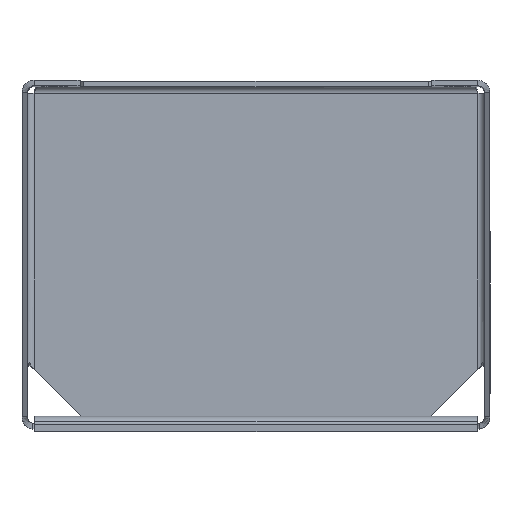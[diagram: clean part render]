
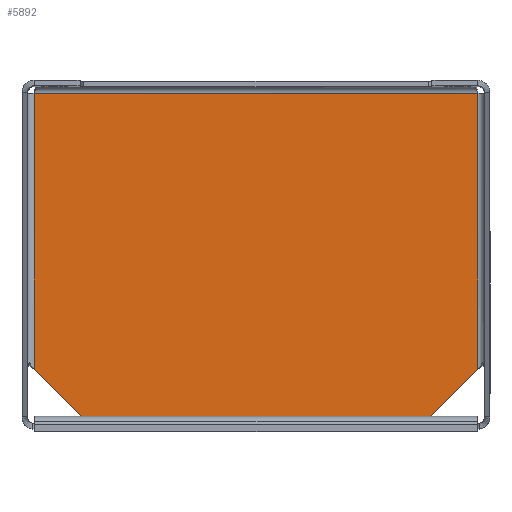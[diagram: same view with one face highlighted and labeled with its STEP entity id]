
A CAD part, top view. The second image highlights one B-rep face of the part: STEP entity #5892.
In plain terms, the highlighted planar face has unit normal (0, 0, 1).
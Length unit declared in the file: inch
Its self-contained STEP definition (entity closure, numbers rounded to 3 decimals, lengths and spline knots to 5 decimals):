
#475 = CARTESIAN_POINT ( 'NONE',  ( 3.9365, 1.152, 0.095 ) ) ;
#482 = DIRECTION ( 'NONE',  ( -0.707, -0.707, 0. ) ) ;
#573 = CARTESIAN_POINT ( 'NONE',  ( 2.9925, 0.208, 0.095 ) ) ;
#611 = CARTESIAN_POINT ( 'NONE',  ( -2.9925, 0.208, 0.095 ) ) ;
#612 = CARTESIAN_POINT ( 'NONE',  ( -3.823, 1.0385, 0.095 ) ) ;
#638 = CARTESIAN_POINT ( 'NONE',  ( -3.823, 5.792, 0.095 ) ) ;
#709 = CARTESIAN_POINT ( 'NONE',  ( 3.823, 5.792, 0.095 ) ) ;
#718 = CARTESIAN_POINT ( 'NONE',  ( 3.823, 1.0385, 0.095 ) ) ;
#827 = CARTESIAN_POINT ( 'NONE',  ( 3.823, 6., 0.095 ) ) ;
#832 = DIRECTION ( 'NONE',  ( 0., -1., 0. ) ) ;
#1036 = ORIENTED_EDGE ( 'NONE', *, *, #2772, .T. ) ;
#1037 = ORIENTED_EDGE ( 'NONE', *, *, #2717, .F. ) ;
#1038 = ORIENTED_EDGE ( 'NONE', *, *, #2789, .F. ) ;
#1041 = ORIENTED_EDGE ( 'NONE', *, *, #7444, .F. ) ;
#1042 = ORIENTED_EDGE ( 'NONE', *, *, #2731, .F. ) ;
#2538 = CARTESIAN_POINT ( 'NONE',  ( -4.031, 6., 0.095 ) ) ;
#2539 = PLANE ( 'NONE',  #3227 ) ;
#2544 = DIRECTION ( 'NONE',  ( 0., 0., -1. ) ) ;
#2545 = DIRECTION ( 'NONE',  ( -1., 0., 0. ) ) ;
#2717 = EDGE_CURVE ( 'NONE', #7158, #7159, #4532, .T. ) ;
#2731 = EDGE_CURVE ( 'NONE', #7191, #7293, #4550, .T. ) ;
#2772 = EDGE_CURVE ( 'NONE', #7191, #7159, #4599, .T. ) ;
#2789 = EDGE_CURVE ( 'NONE', #7096, #7158, #4625, .T. ) ;
#3227 = AXIS2_PLACEMENT_3D ( 'NONE', #2538, #2544, #2545 ) ;
#3637 = FACE_OUTER_BOUND ( 'NONE', #4403, .T. ) ;
#3695 = VECTOR ( 'NONE', #482, 39.37008 ) ;
#3698 = LINE ( 'NONE', #475, #3695 ) ;
#3720 = LINE ( 'NONE', #827, #3723 ) ;
#3723 = VECTOR ( 'NONE', #832, 39.37008 ) ;
#4403 = EDGE_LOOP ( 'NONE', ( #6687, #1041, #1042, #1036, #1037, #1038 ) ) ;
#4528 = VECTOR ( 'NONE', #5720, 39.37008 ) ;
#4532 = LINE ( 'NONE', #5721, #4528 ) ;
#4550 = LINE ( 'NONE', #5675, #4556 ) ;
#4556 = VECTOR ( 'NONE', #5658, 39.37008 ) ;
#4595 = VECTOR ( 'NONE', #5478, 39.37008 ) ;
#4599 = LINE ( 'NONE', #5479, #4595 ) ;
#4614 = VECTOR ( 'NONE', #5408, 39.37008 ) ;
#4625 = LINE ( 'NONE', #5409, #4614 ) ;
#5408 = DIRECTION ( 'NONE',  ( -1., 0., 0. ) ) ;
#5409 = CARTESIAN_POINT ( 'NONE',  ( 3.823, 0.208, 0.095 ) ) ;
#5478 = DIRECTION ( 'NONE',  ( 0., -1., 0. ) ) ;
#5479 = CARTESIAN_POINT ( 'NONE',  ( -3.823, 6., 0.095 ) ) ;
#5658 = DIRECTION ( 'NONE',  ( 1., 0., 0. ) ) ;
#5675 = CARTESIAN_POINT ( 'NONE',  ( -3.823, 5.792, 0.095 ) ) ;
#5720 = DIRECTION ( 'NONE',  ( -0.707, 0.707, 0. ) ) ;
#5721 = CARTESIAN_POINT ( 'NONE',  ( -3.9365, 1.152, 0.095 ) ) ;
#5892 = ADVANCED_FACE ( 'NONE', ( #3637 ), #2539, .F. ) ;
#6687 = ORIENTED_EDGE ( 'NONE', *, *, #6842, .F. ) ;
#6842 = EDGE_CURVE ( 'NONE', #7318, #7096, #3698, .T. ) ;
#7096 = VERTEX_POINT ( 'NONE', #573 ) ;
#7158 = VERTEX_POINT ( 'NONE', #611 ) ;
#7159 = VERTEX_POINT ( 'NONE', #612 ) ;
#7191 = VERTEX_POINT ( 'NONE', #638 ) ;
#7293 = VERTEX_POINT ( 'NONE', #709 ) ;
#7318 = VERTEX_POINT ( 'NONE', #718 ) ;
#7444 = EDGE_CURVE ( 'NONE', #7293, #7318, #3720, .T. ) ;
